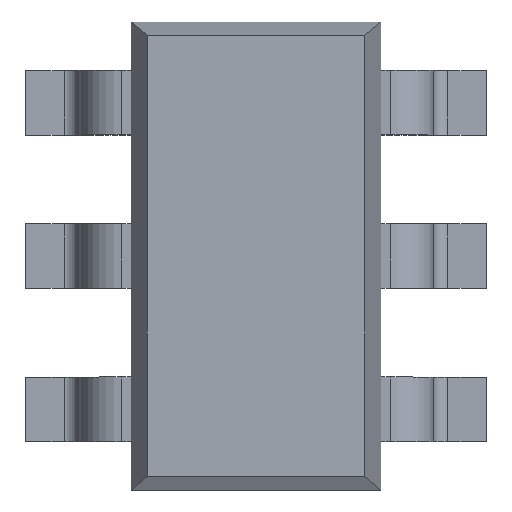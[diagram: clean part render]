
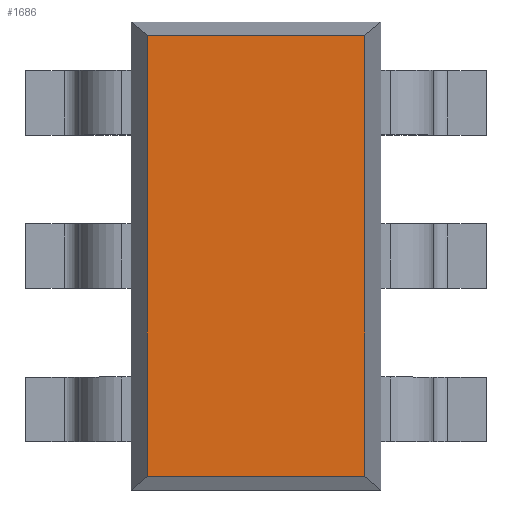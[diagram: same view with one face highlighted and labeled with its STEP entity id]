
A CAD part, top view. The second image highlights one B-rep face of the part: STEP entity #1686.
In plain terms, the highlighted planar face has unit normal (0, 0, 1).
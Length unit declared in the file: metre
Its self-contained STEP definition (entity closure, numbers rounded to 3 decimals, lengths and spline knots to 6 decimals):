
#168=ORIENTED_EDGE('',*,*,#656,.F.);
#169=ORIENTED_EDGE('',*,*,#657,.T.);
#170=ORIENTED_EDGE('',*,*,#658,.T.);
#171=ORIENTED_EDGE('',*,*,#659,.F.);
#656=EDGE_CURVE('',#900,#901,#1060,.F.);
#657=EDGE_CURVE('',#900,#902,#1061,.T.);
#658=EDGE_CURVE('',#902,#903,#1062,.F.);
#659=EDGE_CURVE('',#901,#903,#1063,.T.);
#900=VERTEX_POINT('',#2428);
#901=VERTEX_POINT('',#2429);
#902=VERTEX_POINT('',#2431);
#903=VERTEX_POINT('',#2433);
#1060=LINE('',#2427,#1208);
#1061=LINE('',#2430,#1209);
#1062=LINE('',#2432,#1210);
#1063=LINE('',#2434,#1211);
#1208=VECTOR('',#1966,1.);
#1209=VECTOR('',#1967,1.);
#1210=VECTOR('',#1968,1.);
#1211=VECTOR('',#1969,1.);
#1329=EDGE_LOOP('',(#168,#169,#170,#171));
#1427=FACE_BOUND('',#1329,.T.);
#1519=PLANE('',#1783);
#1686=ADVANCED_FACE('',(#1427),#1519,.T.);
#1783=AXIS2_PLACEMENT_3D('',#2426,#1964,#1965);
#1964=DIRECTION('',(0.,0.,1.));
#1965=DIRECTION('',(0.,-1.,0.));
#1966=DIRECTION('',(0.,-1.,0.));
#1967=DIRECTION('',(1.,0.,0.));
#1968=DIRECTION('',(0.,-1.,0.));
#1969=DIRECTION('',(1.,0.,0.));
#2426=CARTESIAN_POINT('',(-0.041816,0.001829,-0.02748));
#2427=CARTESIAN_POINT('',(-0.041742,-0.000183,-0.02748));
#2428=CARTESIAN_POINT('',(-0.041742,0.000466,-0.02748));
#2429=CARTESIAN_POINT('',(-0.041742,0.002488,-0.02748));
#2430=CARTESIAN_POINT('',(-0.041816,0.000466,-0.02748));
#2431=CARTESIAN_POINT('',(-0.040746,0.000466,-0.02748));
#2432=CARTESIAN_POINT('',(-0.040746,0.001829,-0.02748));
#2433=CARTESIAN_POINT('',(-0.040746,0.002488,-0.02748));
#2434=CARTESIAN_POINT('',(-0.042514,0.002488,-0.02748));
